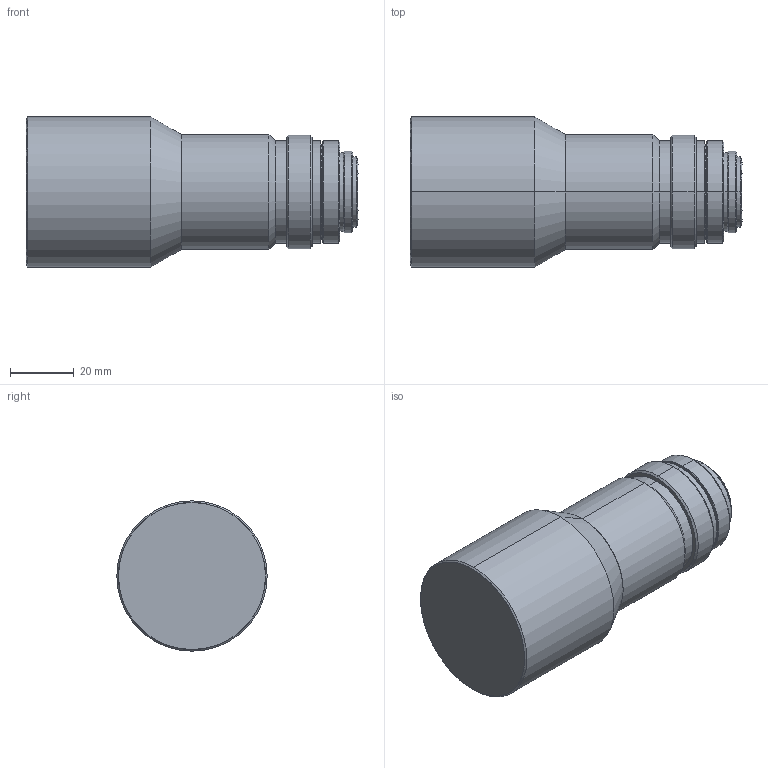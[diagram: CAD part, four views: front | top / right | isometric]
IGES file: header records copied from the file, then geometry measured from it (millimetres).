
Start section: SolidWorks IGES file using analytic representation for surfaces
Global section: file name: C:\Users\sugita_vst\Desktop\AutoCAD恾柺DATA\丒VS-TCM025-150_S (3D儌僨儖) 仯\VS-TCM025-150_S.IGS; native system: SolidWorks 2018; preprocessor: SolidWorks 2018; author: sugita_vst; date: 181122.140644; units: millimetre
Bounding box: 103.85 x 47 x 47 mm (x, y, z)
Surface area: 16115.8 mm2 (no closed solid volume)
Topology: 0 solids, 0 shells, 55 faces, 1080 edges, 1080 vertices
Faces by surface type: revolution 46, bspline 9
